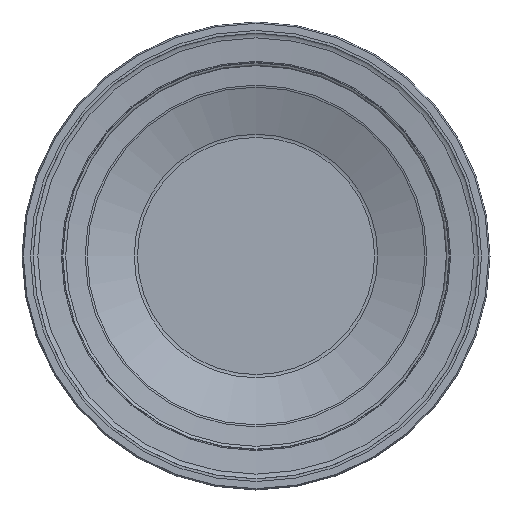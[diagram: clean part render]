
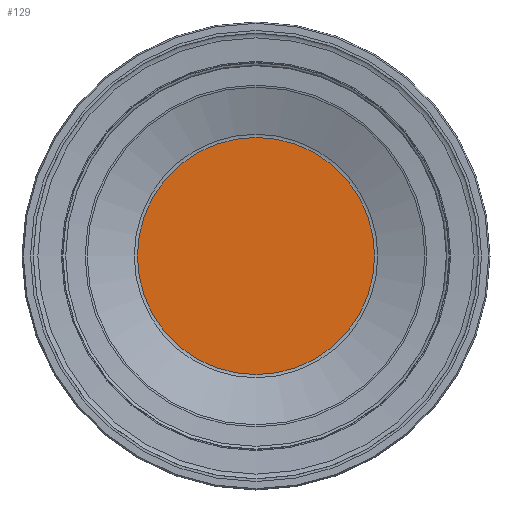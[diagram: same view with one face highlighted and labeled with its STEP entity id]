
A CAD part, left-side view. The second image highlights one B-rep face of the part: STEP entity #129.
In plain terms, the highlighted planar face has unit normal (-1, 0, 0).
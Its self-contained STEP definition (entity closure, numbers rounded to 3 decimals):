
#96=PLANE('',#470);
#98=FACE_OUTER_BOUND('',#259,.T.);
#129=ADVANCED_FACE('',(#98),#96,.T.);
#259=EDGE_LOOP('',(#323));
#323=ORIENTED_EDGE('',*,*,#392,.T.);
#360=VERTEX_POINT('',#776);
#392=EDGE_CURVE('',#360,#360,#424,.T.);
#424=CIRCLE('',#469,25.682);
#469=AXIS2_PLACEMENT_3D('',#775,#576,#577);
#470=AXIS2_PLACEMENT_3D('',#777,#578,#579);
#576=DIRECTION('',(-1.,0.,0.));
#577=DIRECTION('',(0.,0.,1.));
#578=DIRECTION('',(-1.,0.,0.));
#579=DIRECTION('',(0.,0.,1.));
#775=CARTESIAN_POINT('',(6.,0.,0.));
#776=CARTESIAN_POINT('',(6.,0.,25.682));
#777=CARTESIAN_POINT('',(6.,0.,0.));
